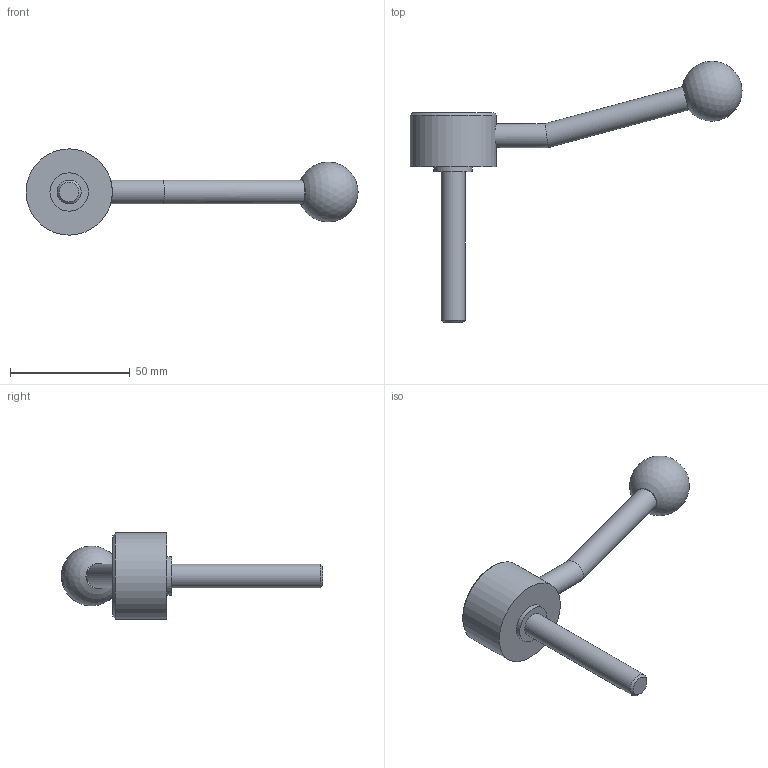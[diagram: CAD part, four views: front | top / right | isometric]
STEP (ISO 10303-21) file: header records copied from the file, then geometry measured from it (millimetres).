
FILE_DESCRIPTION( ( 'STEP AP203' ), '1' );
FILE_NAME( 'C:/Temp/Ganter_Step_05_03_2020/data/2_1/gn_125/gn_125_ms/gn_125_ms_e/Flat Adjustable Lever GN 125-36-M10-63-E.stp', '2020-03-05T11:00:58', ( 'License CC BY-ND 4.0' ), ( 'CADENAS' ), ' ', 'PARTsolutions', ' ' );
FILE_SCHEMA( ( 'CONFIG_CONTROL_DESIGN' ) );
Length unit declared in the file: millimetre
Products named in the file (1): _Flat Adjustable Lever GN 125-36-M10-63-E
Bounding box: 138.41 x 108.97 x 36 mm (x, y, z)
Volume: 42557.4 mm3; surface area: 10953.3 mm2
Topology: 1 solids, 1 shells, 15 faces, 25 edges, 16 vertices
Faces by surface type: cylinder 6, plane 6, cone 2, sphere 1
Full cylindrical faces by diameter (mm): 10 x3, 16 x1, 26 x1, 36 x1
Entity records: 412 total; most frequent: CARTESIAN_POINT 118, DIRECTION 58, AXIS2_PLACEMENT_3D 29, EDGE_LOOP 28, ORIENTED_EDGE 28, FACE_OUTER_BOUND 21, ADVANCED_FACE 15, VERTEX_POINT 15
